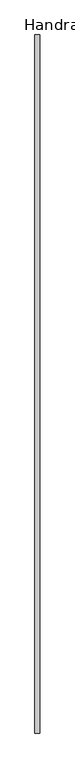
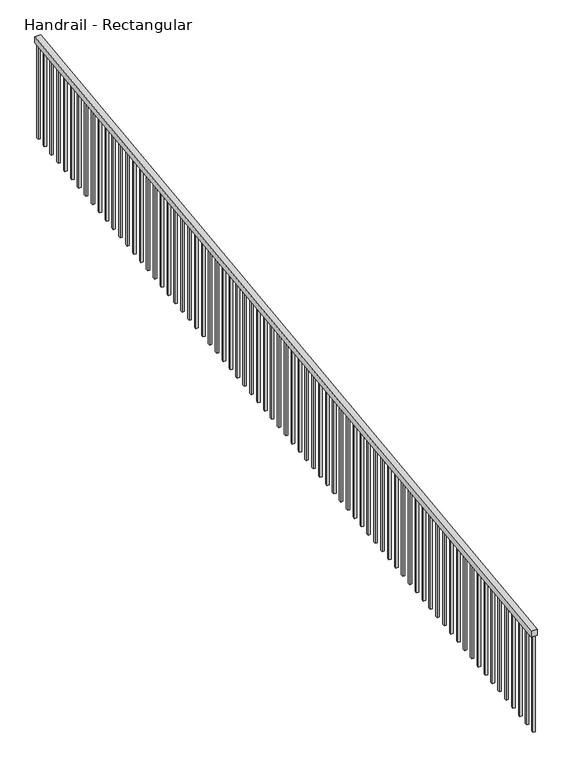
"""IFC4 building model written with IfcOpenShell, lengths in millimetres: railing geometry, Handrail - Rectangular."""

from ifc_helpers import new_model, si_unit, frame, origin, place, context, project, spatial, polyline, outline, extrude, source, transform, mapped, element, save


def handrail_rectangular_1615bb59(model_context):
    return source(origin(), model_context, "Body", "SweptSolid", [
        extrude(outline(polyline([(-8472.2859239, -51.1953367), (-8472.2859239, 0.0), (-1157.0859239, 914.4), (-1157.0859239, 863.2046633), (-8472.2859239, -51.1953367)])), frame((-400.4845581, 0.0, 0.0), z_axis=(1.0, 0.0, 0.0), x_axis=(0.0, 1.0, 0.0)), (0.0, 0.0, 1.0), 50.8),
        extrude(outline(polyline([(-1249.1609239, 851.6952883), (-1249.1609239, -11.509375), (-1268.2109239, -13.890625), (-1268.2109239, 849.3140383), (-1249.1609239, 851.6952883)])), frame((-384.6095581, 0.0, 0.0), z_axis=(1.0, 0.0, 0.0), x_axis=(0.0, 1.0, 0.0)), (0.0, 0.0, 1.0), 19.05),
        extrude(outline(polyline([(-1350.7609239, 838.9952883), (-1350.7609239, -24.209375), (-1369.8109239, -26.590625), (-1369.8109239, 836.6140383), (-1350.7609239, 838.9952883)])), frame((-384.6095581, 0.0, 0.0), z_axis=(1.0, 0.0, 0.0), x_axis=(0.0, 1.0, 0.0)), (0.0, 0.0, 1.0), 19.05),
        extrude(outline(polyline([(-1452.3609239, 826.2952883), (-1452.3609239, -36.909375), (-1471.4109239, -39.290625), (-1471.4109239, 823.9140383), (-1452.3609239, 826.2952883)])), frame((-384.6095581, 0.0, 0.0), z_axis=(1.0, 0.0, 0.0), x_axis=(0.0, 1.0, 0.0)), (0.0, 0.0, 1.0), 19.05),
        extrude(outline(polyline([(-1553.9609239, 813.5952883), (-1553.9609239, -49.609375), (-1573.0109239, -51.990625), (-1573.0109239, 811.2140383), (-1553.9609239, 813.5952883)])), frame((-384.6095581, 0.0, 0.0), z_axis=(1.0, 0.0, 0.0), x_axis=(0.0, 1.0, 0.0)), (0.0, 0.0, 1.0), 19.05),
        extrude(outline(polyline([(-1655.5609239, 800.8952883), (-1655.5609239, -62.309375), (-1674.6109239, -64.690625), (-1674.6109239, 798.5140383), (-1655.5609239, 800.8952883)])), frame((-384.6095581, 0.0, 0.0), z_axis=(1.0, 0.0, 0.0), x_axis=(0.0, 1.0, 0.0)), (0.0, 0.0, 1.0), 19.05),
        extrude(outline(polyline([(-1757.1609239, 788.1952883), (-1757.1609239, -75.009375), (-1776.2109239, -77.390625), (-1776.2109239, 785.8140383), (-1757.1609239, 788.1952883)])), frame((-384.6095581, 0.0, 0.0), z_axis=(1.0, 0.0, 0.0), x_axis=(0.0, 1.0, 0.0)), (0.0, 0.0, 1.0), 19.05),
        extrude(outline(polyline([(-1858.7609239, 775.4952883), (-1858.7609239, -87.709375), (-1877.8109239, -90.090625), (-1877.8109239, 773.1140383), (-1858.7609239, 775.4952883)])), frame((-384.6095581, 0.0, 0.0), z_axis=(1.0, 0.0, 0.0), x_axis=(0.0, 1.0, 0.0)), (0.0, 0.0, 1.0), 19.05),
        extrude(outline(polyline([(-1960.3609239, 762.7952883), (-1960.3609239, -100.409375), (-1979.4109239, -102.790625), (-1979.4109239, 760.4140383), (-1960.3609239, 762.7952883)])), frame((-384.6095581, 0.0, 0.0), z_axis=(1.0, 0.0, 0.0), x_axis=(0.0, 1.0, 0.0)), (0.0, 0.0, 1.0), 19.05),
        extrude(outline(polyline([(-2061.9609239, 750.0952883), (-2061.9609239, -113.109375), (-2081.0109239, -115.490625), (-2081.0109239, 747.7140383), (-2061.9609239, 750.0952883)])), frame((-384.6095581, 0.0, 0.0), z_axis=(1.0, 0.0, 0.0), x_axis=(0.0, 1.0, 0.0)), (0.0, 0.0, 1.0), 19.05),
        extrude(outline(polyline([(-2163.5609239, 737.3952883), (-2163.5609239, -125.809375), (-2182.6109239, -128.190625), (-2182.6109239, 735.0140383), (-2163.5609239, 737.3952883)])), frame((-384.6095581, 0.0, 0.0), z_axis=(1.0, 0.0, 0.0), x_axis=(0.0, 1.0, 0.0)), (0.0, 0.0, 1.0), 19.05),
        extrude(outline(polyline([(-2265.1609239, 724.6952883), (-2265.1609239, -138.509375), (-2284.2109239, -140.890625), (-2284.2109239, 722.3140383), (-2265.1609239, 724.6952883)])), frame((-384.6095581, 0.0, 0.0), z_axis=(1.0, 0.0, 0.0), x_axis=(0.0, 1.0, 0.0)), (0.0, 0.0, 1.0), 19.05),
        extrude(outline(polyline([(-2366.7609239, 711.9952883), (-2366.7609239, -151.209375), (-2385.8109239, -153.590625), (-2385.8109239, 709.6140383), (-2366.7609239, 711.9952883)])), frame((-384.6095581, 0.0, 0.0), z_axis=(1.0, 0.0, 0.0), x_axis=(0.0, 1.0, 0.0)), (0.0, 0.0, 1.0), 19.05),
        extrude(outline(polyline([(-2468.3609239, 699.2952883), (-2468.3609239, -163.909375), (-2487.4109239, -166.290625), (-2487.4109239, 696.9140383), (-2468.3609239, 699.2952883)])), frame((-384.6095581, 0.0, 0.0), z_axis=(1.0, 0.0, 0.0), x_axis=(0.0, 1.0, 0.0)), (0.0, 0.0, 1.0), 19.05),
        extrude(outline(polyline([(-2569.9609239, 686.5952883), (-2569.9609239, -176.609375), (-2589.0109239, -178.990625), (-2589.0109239, 684.2140383), (-2569.9609239, 686.5952883)])), frame((-384.6095581, 0.0, 0.0), z_axis=(1.0, 0.0, 0.0), x_axis=(0.0, 1.0, 0.0)), (0.0, 0.0, 1.0), 19.05),
        extrude(outline(polyline([(-2671.5609239, 673.8952883), (-2671.5609239, -189.309375), (-2690.6109239, -191.690625), (-2690.6109239, 671.5140383), (-2671.5609239, 673.8952883)])), frame((-384.6095581, 0.0, 0.0), z_axis=(1.0, 0.0, 0.0), x_axis=(0.0, 1.0, 0.0)), (0.0, 0.0, 1.0), 19.05),
        extrude(outline(polyline([(-2773.1609239, 661.1952883), (-2773.1609239, -202.009375), (-2792.2109239, -204.390625), (-2792.2109239, 658.8140383), (-2773.1609239, 661.1952883)])), frame((-384.6095581, 0.0, 0.0), z_axis=(1.0, 0.0, 0.0), x_axis=(0.0, 1.0, 0.0)), (0.0, 0.0, 1.0), 19.05),
        extrude(outline(polyline([(-2874.7609239, 648.4952883), (-2874.7609239, -214.709375), (-2893.8109239, -217.090625), (-2893.8109239, 646.1140383), (-2874.7609239, 648.4952883)])), frame((-384.6095581, 0.0, 0.0), z_axis=(1.0, 0.0, 0.0), x_axis=(0.0, 1.0, 0.0)), (0.0, 0.0, 1.0), 19.05),
        extrude(outline(polyline([(-2976.3609239, 635.7952883), (-2976.3609239, -227.409375), (-2995.4109239, -229.790625), (-2995.4109239, 633.4140383), (-2976.3609239, 635.7952883)])), frame((-384.6095581, 0.0, 0.0), z_axis=(1.0, 0.0, 0.0), x_axis=(0.0, 1.0, 0.0)), (0.0, 0.0, 1.0), 19.05),
        extrude(outline(polyline([(-3077.9609239, 623.0952883), (-3077.9609239, -240.109375), (-3097.0109239, -242.490625), (-3097.0109239, 620.7140383), (-3077.9609239, 623.0952883)])), frame((-384.6095581, 0.0, 0.0), z_axis=(1.0, 0.0, 0.0), x_axis=(0.0, 1.0, 0.0)), (0.0, 0.0, 1.0), 19.05),
        extrude(outline(polyline([(-3179.5609239, 610.3952883), (-3179.5609239, -252.809375), (-3198.6109239, -255.190625), (-3198.6109239, 608.0140383), (-3179.5609239, 610.3952883)])), frame((-384.6095581, 0.0, 0.0), z_axis=(1.0, 0.0, 0.0), x_axis=(0.0, 1.0, 0.0)), (0.0, 0.0, 1.0), 19.05),
        extrude(outline(polyline([(-3281.1609239, 597.6952883), (-3281.1609239, -265.509375), (-3300.2109239, -267.890625), (-3300.2109239, 595.3140383), (-3281.1609239, 597.6952883)])), frame((-384.6095581, 0.0, 0.0), z_axis=(1.0, 0.0, 0.0), x_axis=(0.0, 1.0, 0.0)), (0.0, 0.0, 1.0), 19.05),
        extrude(outline(polyline([(-3382.7609239, 584.9952883), (-3382.7609239, -278.209375), (-3401.8109239, -280.590625), (-3401.8109239, 582.6140383), (-3382.7609239, 584.9952883)])), frame((-384.6095581, 0.0, 0.0), z_axis=(1.0, 0.0, 0.0), x_axis=(0.0, 1.0, 0.0)), (0.0, 0.0, 1.0), 19.05),
        extrude(outline(polyline([(-3484.3609239, 572.2952883), (-3484.3609239, -290.909375), (-3503.4109239, -293.290625), (-3503.4109239, 569.9140383), (-3484.3609239, 572.2952883)])), frame((-384.6095581, 0.0, 0.0), z_axis=(1.0, 0.0, 0.0), x_axis=(0.0, 1.0, 0.0)), (0.0, 0.0, 1.0), 19.05),
        extrude(outline(polyline([(-3585.9609239, 559.5952883), (-3585.9609239, -303.609375), (-3605.0109239, -305.990625), (-3605.0109239, 557.2140383), (-3585.9609239, 559.5952883)])), frame((-384.6095581, 0.0, 0.0), z_axis=(1.0, 0.0, 0.0), x_axis=(0.0, 1.0, 0.0)), (0.0, 0.0, 1.0), 19.05),
        extrude(outline(polyline([(-3687.5609239, 546.8952883), (-3687.5609239, -316.309375), (-3706.6109239, -318.690625), (-3706.6109239, 544.5140383), (-3687.5609239, 546.8952883)])), frame((-384.6095581, 0.0, 0.0), z_axis=(1.0, 0.0, 0.0), x_axis=(0.0, 1.0, 0.0)), (0.0, 0.0, 1.0), 19.05),
        extrude(outline(polyline([(-3789.1609239, 534.1952883), (-3789.1609239, -329.009375), (-3808.2109239, -331.390625), (-3808.2109239, 531.8140383), (-3789.1609239, 534.1952883)])), frame((-384.6095581, 0.0, 0.0), z_axis=(1.0, 0.0, 0.0), x_axis=(0.0, 1.0, 0.0)), (0.0, 0.0, 1.0), 19.05),
        extrude(outline(polyline([(-3890.7609239, 521.4952883), (-3890.7609239, -341.709375), (-3909.8109239, -344.090625), (-3909.8109239, 519.1140383), (-3890.7609239, 521.4952883)])), frame((-384.6095581, 0.0, 0.0), z_axis=(1.0, 0.0, 0.0), x_axis=(0.0, 1.0, 0.0)), (0.0, 0.0, 1.0), 19.05),
        extrude(outline(polyline([(-3992.3609239, 508.7952883), (-3992.3609239, -354.409375), (-4011.4109239, -356.790625), (-4011.4109239, 506.4140383), (-3992.3609239, 508.7952883)])), frame((-384.6095581, 0.0, 0.0), z_axis=(1.0, 0.0, 0.0), x_axis=(0.0, 1.0, 0.0)), (0.0, 0.0, 1.0), 19.05),
        extrude(outline(polyline([(-4093.9609239, 496.0952883), (-4093.9609239, -367.109375), (-4113.0109239, -369.490625), (-4113.0109239, 493.7140383), (-4093.9609239, 496.0952883)])), frame((-384.6095581, 0.0, 0.0), z_axis=(1.0, 0.0, 0.0), x_axis=(0.0, 1.0, 0.0)), (0.0, 0.0, 1.0), 19.05),
        extrude(outline(polyline([(-4195.5609239, 483.3952883), (-4195.5609239, -379.809375), (-4214.6109239, -382.190625), (-4214.6109239, 481.0140383), (-4195.5609239, 483.3952883)])), frame((-384.6095581, 0.0, 0.0), z_axis=(1.0, 0.0, 0.0), x_axis=(0.0, 1.0, 0.0)), (0.0, 0.0, 1.0), 19.05),
        extrude(outline(polyline([(-4297.1609239, 470.6952883), (-4297.1609239, -392.509375), (-4316.2109239, -394.890625), (-4316.2109239, 468.3140383), (-4297.1609239, 470.6952883)])), frame((-384.6095581, 0.0, 0.0), z_axis=(1.0, 0.0, 0.0), x_axis=(0.0, 1.0, 0.0)), (0.0, 0.0, 1.0), 19.05),
        extrude(outline(polyline([(-4398.7609239, 457.9952883), (-4398.7609239, -405.209375), (-4417.8109239, -407.590625), (-4417.8109239, 455.6140383), (-4398.7609239, 457.9952883)])), frame((-384.6095581, 0.0, 0.0), z_axis=(1.0, 0.0, 0.0), x_axis=(0.0, 1.0, 0.0)), (0.0, 0.0, 1.0), 19.05),
        extrude(outline(polyline([(-4500.3609239, 445.2952883), (-4500.3609239, -417.909375), (-4519.4109239, -420.290625), (-4519.4109239, 442.9140383), (-4500.3609239, 445.2952883)])), frame((-384.6095581, 0.0, 0.0), z_axis=(1.0, 0.0, 0.0), x_axis=(0.0, 1.0, 0.0)), (0.0, 0.0, 1.0), 19.05),
        extrude(outline(polyline([(-4601.9609239, 432.5952883), (-4601.9609239, -430.609375), (-4621.0109239, -432.990625), (-4621.0109239, 430.2140383), (-4601.9609239, 432.5952883)])), frame((-384.6095581, 0.0, 0.0), z_axis=(1.0, 0.0, 0.0), x_axis=(0.0, 1.0, 0.0)), (0.0, 0.0, 1.0), 19.05),
        extrude(outline(polyline([(-4703.5609239, 419.8952883), (-4703.5609239, -443.309375), (-4722.6109239, -445.690625), (-4722.6109239, 417.5140383), (-4703.5609239, 419.8952883)])), frame((-384.6095581, 0.0, 0.0), z_axis=(1.0, 0.0, 0.0), x_axis=(0.0, 1.0, 0.0)), (0.0, 0.0, 1.0), 19.05),
        extrude(outline(polyline([(-4805.1609239, 407.1952883), (-4805.1609239, -456.009375), (-4824.2109239, -458.390625), (-4824.2109239, 404.8140383), (-4805.1609239, 407.1952883)])), frame((-384.6095581, 0.0, 0.0), z_axis=(1.0, 0.0, 0.0), x_axis=(0.0, 1.0, 0.0)), (0.0, 0.0, 1.0), 19.05),
        extrude(outline(polyline([(-4906.7609239, 394.4952883), (-4906.7609239, -468.709375), (-4925.8109239, -471.090625), (-4925.8109239, 392.1140383), (-4906.7609239, 394.4952883)])), frame((-384.6095581, 0.0, 0.0), z_axis=(1.0, 0.0, 0.0), x_axis=(0.0, 1.0, 0.0)), (0.0, 0.0, 1.0), 19.05),
        extrude(outline(polyline([(-5008.3609239, 381.7952883), (-5008.3609239, -481.409375), (-5027.4109239, -483.790625), (-5027.4109239, 379.4140383), (-5008.3609239, 381.7952883)])), frame((-384.6095581, 0.0, 0.0), z_axis=(1.0, 0.0, 0.0), x_axis=(0.0, 1.0, 0.0)), (0.0, 0.0, 1.0), 19.05),
        extrude(outline(polyline([(-5109.9609239, 369.0952883), (-5109.9609239, -494.109375), (-5129.0109239, -496.490625), (-5129.0109239, 366.7140383), (-5109.9609239, 369.0952883)])), frame((-384.6095581, 0.0, 0.0), z_axis=(1.0, 0.0, 0.0), x_axis=(0.0, 1.0, 0.0)), (0.0, 0.0, 1.0), 19.05),
        extrude(outline(polyline([(-5211.5609239, 356.3952883), (-5211.5609239, -506.809375), (-5230.6109239, -509.190625), (-5230.6109239, 354.0140383), (-5211.5609239, 356.3952883)])), frame((-384.6095581, 0.0, 0.0), z_axis=(1.0, 0.0, 0.0), x_axis=(0.0, 1.0, 0.0)), (0.0, 0.0, 1.0), 19.05),
        extrude(outline(polyline([(-5313.1609239, 343.6952883), (-5313.1609239, -519.509375), (-5332.2109239, -521.890625), (-5332.2109239, 341.3140383), (-5313.1609239, 343.6952883)])), frame((-384.6095581, 0.0, 0.0), z_axis=(1.0, 0.0, 0.0), x_axis=(0.0, 1.0, 0.0)), (0.0, 0.0, 1.0), 19.05),
        extrude(outline(polyline([(-5414.7609239, 330.9952883), (-5414.7609239, -532.209375), (-5433.8109239, -534.590625), (-5433.8109239, 328.6140383), (-5414.7609239, 330.9952883)])), frame((-384.6095581, 0.0, 0.0), z_axis=(1.0, 0.0, 0.0), x_axis=(0.0, 1.0, 0.0)), (0.0, 0.0, 1.0), 19.05),
        extrude(outline(polyline([(-5516.3609239, 318.2952883), (-5516.3609239, -544.909375), (-5535.4109239, -547.290625), (-5535.4109239, 315.9140383), (-5516.3609239, 318.2952883)])), frame((-384.6095581, 0.0, 0.0), z_axis=(1.0, 0.0, 0.0), x_axis=(0.0, 1.0, 0.0)), (0.0, 0.0, 1.0), 19.05),
        extrude(outline(polyline([(-5617.9609239, 305.5952883), (-5617.9609239, -557.609375), (-5637.0109239, -559.990625), (-5637.0109239, 303.2140383), (-5617.9609239, 305.5952883)])), frame((-384.6095581, 0.0, 0.0), z_axis=(1.0, 0.0, 0.0), x_axis=(0.0, 1.0, 0.0)), (0.0, 0.0, 1.0), 19.05),
        extrude(outline(polyline([(-5719.5609239, 292.8952883), (-5719.5609239, -570.309375), (-5738.6109239, -572.690625), (-5738.6109239, 290.5140383), (-5719.5609239, 292.8952883)])), frame((-384.6095581, 0.0, 0.0), z_axis=(1.0, 0.0, 0.0), x_axis=(0.0, 1.0, 0.0)), (0.0, 0.0, 1.0), 19.05),
        extrude(outline(polyline([(-5821.1609239, 280.1952883), (-5821.1609239, -583.009375), (-5840.2109239, -585.390625), (-5840.2109239, 277.8140383), (-5821.1609239, 280.1952883)])), frame((-384.6095581, 0.0, 0.0), z_axis=(1.0, 0.0, 0.0), x_axis=(0.0, 1.0, 0.0)), (0.0, 0.0, 1.0), 19.05),
        extrude(outline(polyline([(-5922.7609239, 267.4952883), (-5922.7609239, -595.709375), (-5941.8109239, -598.090625), (-5941.8109239, 265.1140383), (-5922.7609239, 267.4952883)])), frame((-384.6095581, 0.0, 0.0), z_axis=(1.0, 0.0, 0.0), x_axis=(0.0, 1.0, 0.0)), (0.0, 0.0, 1.0), 19.05),
        extrude(outline(polyline([(-6024.3609239, 254.7952883), (-6024.3609239, -608.409375), (-6043.4109239, -610.790625), (-6043.4109239, 252.4140383), (-6024.3609239, 254.7952883)])), frame((-384.6095581, 0.0, 0.0), z_axis=(1.0, 0.0, 0.0), x_axis=(0.0, 1.0, 0.0)), (0.0, 0.0, 1.0), 19.05),
        extrude(outline(polyline([(-6125.9609239, 242.0952883), (-6125.9609239, -621.109375), (-6145.0109239, -623.490625), (-6145.0109239, 239.7140383), (-6125.9609239, 242.0952883)])), frame((-384.6095581, 0.0, 0.0), z_axis=(1.0, 0.0, 0.0), x_axis=(0.0, 1.0, 0.0)), (0.0, 0.0, 1.0), 19.05),
        extrude(outline(polyline([(-6227.5609239, 229.3952883), (-6227.5609239, -633.809375), (-6246.6109239, -636.190625), (-6246.6109239, 227.0140383), (-6227.5609239, 229.3952883)])), frame((-384.6095581, 0.0, 0.0), z_axis=(1.0, 0.0, 0.0), x_axis=(0.0, 1.0, 0.0)), (0.0, 0.0, 1.0), 19.05),
        extrude(outline(polyline([(-6329.1609239, 216.6952883), (-6329.1609239, -646.509375), (-6348.2109239, -648.890625), (-6348.2109239, 214.3140383), (-6329.1609239, 216.6952883)])), frame((-384.6095581, 0.0, 0.0), z_axis=(1.0, 0.0, 0.0), x_axis=(0.0, 1.0, 0.0)), (0.0, 0.0, 1.0), 19.05),
        extrude(outline(polyline([(-6430.7609239, 203.9952883), (-6430.7609239, -659.209375), (-6449.8109239, -661.590625), (-6449.8109239, 201.6140383), (-6430.7609239, 203.9952883)])), frame((-384.6095581, 0.0, 0.0), z_axis=(1.0, 0.0, 0.0), x_axis=(0.0, 1.0, 0.0)), (0.0, 0.0, 1.0), 19.05),
        extrude(outline(polyline([(-6532.3609239, 191.2952883), (-6532.3609239, -671.909375), (-6551.4109239, -674.290625), (-6551.4109239, 188.9140383), (-6532.3609239, 191.2952883)])), frame((-384.6095581, 0.0, 0.0), z_axis=(1.0, 0.0, 0.0), x_axis=(0.0, 1.0, 0.0)), (0.0, 0.0, 1.0), 19.05),
        extrude(outline(polyline([(-6633.9609239, 178.5952883), (-6633.9609239, -684.609375), (-6653.0109239, -686.990625), (-6653.0109239, 176.2140383), (-6633.9609239, 178.5952883)])), frame((-384.6095581, 0.0, 0.0), z_axis=(1.0, 0.0, 0.0), x_axis=(0.0, 1.0, 0.0)), (0.0, 0.0, 1.0), 19.05),
        extrude(outline(polyline([(-6735.5609239, 165.8952883), (-6735.5609239, -697.309375), (-6754.6109239, -699.690625), (-6754.6109239, 163.5140383), (-6735.5609239, 165.8952883)])), frame((-384.6095581, 0.0, 0.0), z_axis=(1.0, 0.0, 0.0), x_axis=(0.0, 1.0, 0.0)), (0.0, 0.0, 1.0), 19.05),
        extrude(outline(polyline([(-6837.1609239, 153.1952883), (-6837.1609239, -710.009375), (-6856.2109239, -712.390625), (-6856.2109239, 150.8140383), (-6837.1609239, 153.1952883)])), frame((-384.6095581, 0.0, 0.0), z_axis=(1.0, 0.0, 0.0), x_axis=(0.0, 1.0, 0.0)), (0.0, 0.0, 1.0), 19.05),
        extrude(outline(polyline([(-6938.7609239, 140.4952883), (-6938.7609239, -722.709375), (-6957.8109239, -725.090625), (-6957.8109239, 138.1140383), (-6938.7609239, 140.4952883)])), frame((-384.6095581, 0.0, 0.0), z_axis=(1.0, 0.0, 0.0), x_axis=(0.0, 1.0, 0.0)), (0.0, 0.0, 1.0), 19.05),
        extrude(outline(polyline([(-7040.3609239, 127.7952883), (-7040.3609239, -735.409375), (-7059.4109239, -737.790625), (-7059.4109239, 125.4140383), (-7040.3609239, 127.7952883)])), frame((-384.6095581, 0.0, 0.0), z_axis=(1.0, 0.0, 0.0), x_axis=(0.0, 1.0, 0.0)), (0.0, 0.0, 1.0), 19.05),
        extrude(outline(polyline([(-7141.9609239, 115.0952883), (-7141.9609239, -748.109375), (-7161.0109239, -750.490625), (-7161.0109239, 112.7140383), (-7141.9609239, 115.0952883)])), frame((-384.6095581, 0.0, 0.0), z_axis=(1.0, 0.0, 0.0), x_axis=(0.0, 1.0, 0.0)), (0.0, 0.0, 1.0), 19.05),
        extrude(outline(polyline([(-7243.5609239, 102.3952883), (-7243.5609239, -760.809375), (-7262.6109239, -763.190625), (-7262.6109239, 100.0140383), (-7243.5609239, 102.3952883)])), frame((-384.6095581, 0.0, 0.0), z_axis=(1.0, 0.0, 0.0), x_axis=(0.0, 1.0, 0.0)), (0.0, 0.0, 1.0), 19.05),
        extrude(outline(polyline([(-7345.1609239, 89.6952883), (-7345.1609239, -773.509375), (-7364.2109239, -775.890625), (-7364.2109239, 87.3140383), (-7345.1609239, 89.6952883)])), frame((-384.6095581, 0.0, 0.0), z_axis=(1.0, 0.0, 0.0), x_axis=(0.0, 1.0, 0.0)), (0.0, 0.0, 1.0), 19.05),
        extrude(outline(polyline([(-7446.7609239, 76.9952883), (-7446.7609239, -786.209375), (-7465.8109239, -788.590625), (-7465.8109239, 74.6140383), (-7446.7609239, 76.9952883)])), frame((-384.6095581, 0.0, 0.0), z_axis=(1.0, 0.0, 0.0), x_axis=(0.0, 1.0, 0.0)), (0.0, 0.0, 1.0), 19.05),
        extrude(outline(polyline([(-7548.3609239, 64.2952883), (-7548.3609239, -798.909375), (-7567.4109239, -801.290625), (-7567.4109239, 61.9140383), (-7548.3609239, 64.2952883)])), frame((-384.6095581, 0.0, 0.0), z_axis=(1.0, 0.0, 0.0), x_axis=(0.0, 1.0, 0.0)), (0.0, 0.0, 1.0), 19.05),
        extrude(outline(polyline([(-7649.9609239, 51.5952883), (-7649.9609239, -811.609375), (-7669.0109239, -813.990625), (-7669.0109239, 49.2140383), (-7649.9609239, 51.5952883)])), frame((-384.6095581, 0.0, 0.0), z_axis=(1.0, 0.0, 0.0), x_axis=(0.0, 1.0, 0.0)), (0.0, 0.0, 1.0), 19.05),
        extrude(outline(polyline([(-7751.5609239, 38.8952883), (-7751.5609239, -824.309375), (-7770.6109239, -826.690625), (-7770.6109239, 36.5140383), (-7751.5609239, 38.8952883)])), frame((-384.6095581, 0.0, 0.0), z_axis=(1.0, 0.0, 0.0), x_axis=(0.0, 1.0, 0.0)), (0.0, 0.0, 1.0), 19.05),
        extrude(outline(polyline([(-7853.1609239, 26.1952883), (-7853.1609239, -837.009375), (-7872.2109239, -839.390625), (-7872.2109239, 23.8140383), (-7853.1609239, 26.1952883)])), frame((-384.6095581, 0.0, 0.0), z_axis=(1.0, 0.0, 0.0), x_axis=(0.0, 1.0, 0.0)), (0.0, 0.0, 1.0), 19.05),
        extrude(outline(polyline([(-7954.7609239, 13.4952883), (-7954.7609239, -849.709375), (-7973.8109239, -852.090625), (-7973.8109239, 11.1140383), (-7954.7609239, 13.4952883)])), frame((-384.6095581, 0.0, 0.0), z_axis=(1.0, 0.0, 0.0), x_axis=(0.0, 1.0, 0.0)), (0.0, 0.0, 1.0), 19.05),
        extrude(outline(polyline([(-8056.3609239, 0.7952883), (-8056.3609239, -862.409375), (-8075.4109239, -864.790625), (-8075.4109239, -1.5859617), (-8056.3609239, 0.7952883)])), frame((-384.6095581, 0.0, 0.0), z_axis=(1.0, 0.0, 0.0), x_axis=(0.0, 1.0, 0.0)), (0.0, 0.0, 1.0), 19.05),
        extrude(outline(polyline([(-8157.9609239, -11.9047117), (-8157.9609239, -875.109375), (-8177.0109239, -877.490625), (-8177.0109239, -14.2859617), (-8157.9609239, -11.9047117)])), frame((-384.6095581, 0.0, 0.0), z_axis=(1.0, 0.0, 0.0), x_axis=(0.0, 1.0, 0.0)), (0.0, 0.0, 1.0), 19.05),
        extrude(outline(polyline([(-8259.5609239, -24.6047117), (-8259.5609239, -887.809375), (-8278.6109239, -890.190625), (-8278.6109239, -26.9859617), (-8259.5609239, -24.6047117)])), frame((-384.6095581, 0.0, 0.0), z_axis=(1.0, 0.0, 0.0), x_axis=(0.0, 1.0, 0.0)), (0.0, 0.0, 1.0), 19.05),
        extrude(outline(polyline([(-8361.1609239, -37.3047117), (-8361.1609239, -900.509375), (-8380.2109239, -902.890625), (-8380.2109239, -39.6859617), (-8361.1609239, -37.3047117)])), frame((-384.6095581, 0.0, 0.0), z_axis=(1.0, 0.0, 0.0), x_axis=(0.0, 1.0, 0.0)), (0.0, 0.0, 1.0), 19.05),
        extrude(outline(polyline([(-1157.0859239, 863.2046633), (-1157.0859239, 0.0), (-1176.1359239, -2.38125), (-1176.1359239, 860.8234133), (-1157.0859239, 863.2046633)])), frame((-384.6095581, 0.0, 0.0), z_axis=(1.0, 0.0, 0.0), x_axis=(0.0, 1.0, 0.0)), (0.0, 0.0, 1.0), 19.05),
        extrude(outline(polyline([(-8453.2359239, -48.8140867), (-8453.2359239, -912.01875), (-8472.2859239, -914.4), (-8472.2859239, -51.1953367), (-8453.2359239, -48.8140867)])), frame((-384.6095581, 0.0, 0.0), z_axis=(1.0, 0.0, 0.0), x_axis=(0.0, 1.0, 0.0)), (0.0, 0.0, 1.0), 19.05),
    ])


if __name__ == "__main__":
    model = new_model("IFC4")
    model_context = context("Model", 3, world=origin())
    ifc_project = project(units=[si_unit("LENGTHUNIT", "METRE", prefix="MILLI")], contexts=[model_context])
    site = spatial("IfcSite", under=ifc_project)
    building = spatial("IfcBuilding", under=site)
    placement = place(None, origin())
    handrail_rectangular_shape = handrail_rectangular_1615bb59(model_context)
    element("IfcRailing", 1, ObjectType="Handrail - Rectangular", at=placement, inside=building, context=model_context, shape_type="MappedRepresentation", body=[
        mapped(handrail_rectangular_shape, transform((0.0, 0.0, 0.0), x_axis=(1.0, 0.0, 0.0), y_axis=(0.0, 1.0, 0.0), z_axis=(0.0, 0.0, 1.0))),
    ])
    save(model, "model.ifc")
